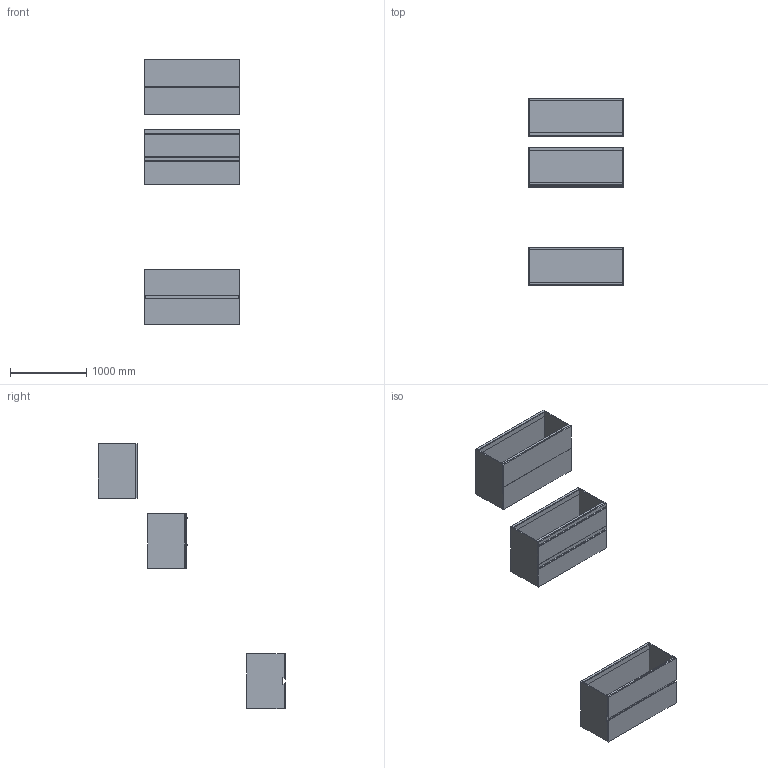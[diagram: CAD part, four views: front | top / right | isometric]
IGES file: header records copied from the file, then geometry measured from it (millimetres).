
Start section: Data from Parasolid IGES Translator 19.0.9, Copyright(c) 2006 Siemens PL M Software. All Rights Reserved.
Global section: file name: noorth-SI-H 72 D 51 W 126_8625.igs; native system: By Siemens PLM Incorporated; preprocessor: XPlus GENERIC/IGES 19.0.9; author: Noname; organization: Noname; date: 20200601.121711; units: metre
Bounding box: 1260 x 2458 x 3480.01 mm (x, y, z)
Volume: 131357124.1 mm3; surface area: 20583303.1 mm2
Topology: 27 solids, 27 shells, 266 faces, 580 edges, 348 vertices
Faces by surface type: plane 182, extrusion 36, bspline 32, cylinder 16
